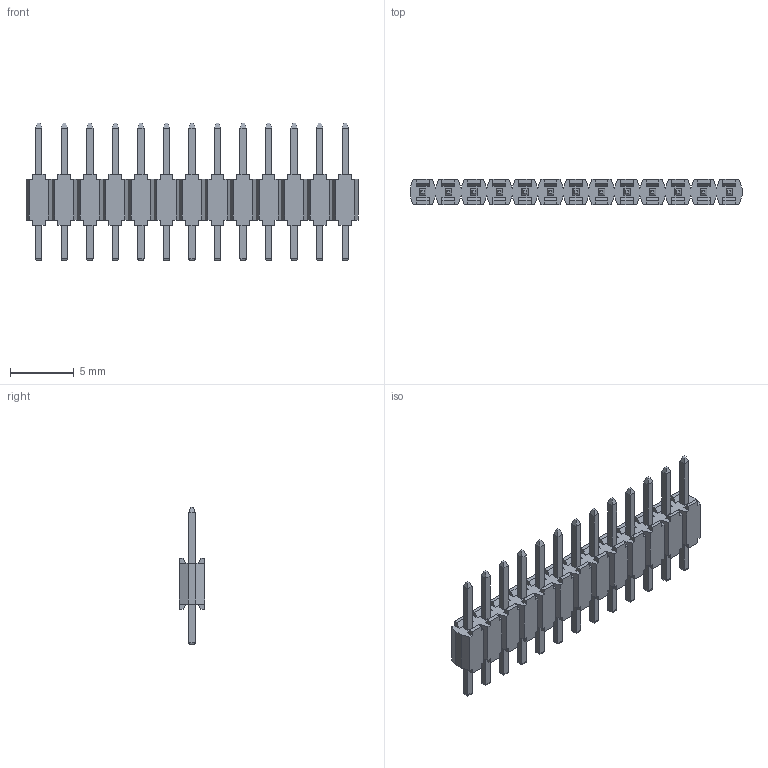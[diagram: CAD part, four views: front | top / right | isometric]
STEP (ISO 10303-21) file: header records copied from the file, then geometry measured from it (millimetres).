
FILE_DESCRIPTION(/* description */ (''),/* implementation_level */ '2;1');
FILE_NAME(/* name */ '951413-9010806-AR',/* time_stamp */ '2007-03-14T13:20:55+01:00',/* author */ (''),/* organization */ (''),/* preprocessor_version */ 'ST-DEVELOPER v9',/* originating_system */ 'UGS - NX 4.0',/* authorisation */ '');
FILE_SCHEMA (('AUTOMOTIVE_DESIGN { 1 0 10303 214 1 1 1 1 }'));
Length unit declared in the file: millimetre
Products named in the file (1): 951413-9010806-AR
Bounding box: 26 x 2 x 10.8 mm (x, y, z)
Volume: 184.6 mm3; surface area: 587 mm2
Topology: 1 solids, 1 shells, 524 faces, 1384 edges, 888 vertices
Faces by surface type: plane 472, cylinder 52
Entity records: 15792 total; most frequent: CARTESIAN_POINT 2797, ORIENTED_EDGE 2768, DIRECTION 2486, EDGE_CURVE 1384, LINE 1332, VECTOR 1332, VERTEX_POINT 888, AXIS2_PLACEMENT_3D 577
